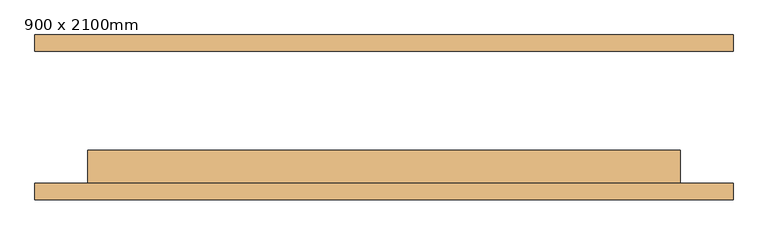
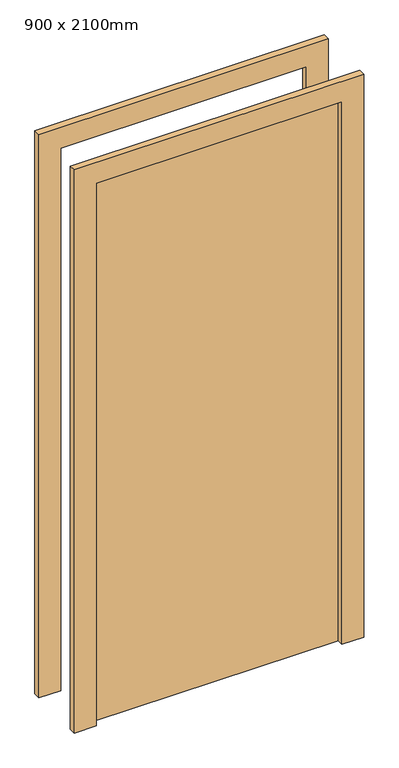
"""IFC4 building model written with IfcOpenShell, lengths in millimetres: door geometry, Дверь-Одинарная-Щитовая_Панель_Двусторонняя : 900 x 2100mm."""

from ifc_helpers import new_model, si_unit, frame, origin, origin_with_axes, place, context, project, spatial, polyline, outline, extrude, source, transform, mapped, element, save


def door_900_x_2100mm_6283dab8(model_context):
    return source(origin(), model_context, "Body", "SweptSolid", [
        extrude(outline(polyline([(450.0, -50.0), (450.0, -100.0), (-450.0, -100.0), (-450.0, -50.0), (450.0, -50.0)])), origin_with_axes(), (0.0, 0.0, 1.0), 2100.0),
        extrude(outline(polyline([(2180.0, -530.0), (0.0, -530.0), (0.0, -450.0), (2100.0, -450.0), (2100.0, 450.0), (0.0, 450.0), (0.0, 530.0), (2180.0, 530.0), (2180.0, -530.0)])), frame((0.0, -125.0, 0.0), z_axis=(0.0, 1.0, 0.0), x_axis=(0.0, 0.0, 1.0)), (0.0, 0.0, 1.0), 25.0),
        extrude(outline(polyline([(2180.0, 530.0), (2180.0, -530.0), (0.0, -530.0), (0.0, -450.0), (2100.0, -450.0), (2100.0, 450.0), (0.0, 450.0), (0.0, 530.0), (2180.0, 530.0)])), frame((0.0, 100.0, 0.0), z_axis=(0.0, 1.0, 0.0), x_axis=(0.0, 0.0, 1.0)), (0.0, 0.0, 1.0), 25.0),
    ])


if __name__ == "__main__":
    model = new_model("IFC4")
    model_context = context("Model", 3, world=origin())
    ifc_project = project(units=[si_unit("LENGTHUNIT", "METRE", prefix="MILLI")], contexts=[model_context])
    site = spatial("IfcSite", under=ifc_project)
    building = spatial("IfcBuilding", under=site)
    placement = place(None, origin())
    door_900_x_2100mm_shape = door_900_x_2100mm_6283dab8(model_context)
    element("IfcDoor", 1, ObjectType="Дверь-Одинарная-Щитовая_Панель_Двусторонняя : 900 x 2100mm", at=placement, inside=building, context=model_context, shape_type="MappedRepresentation", body=[
        mapped(door_900_x_2100mm_shape, transform((0.0, 0.0, 0.0), x_axis=(1.0, 0.0, 0.0), y_axis=(0.0, 1.0, 0.0), z_axis=(0.0, 0.0, 1.0))),
    ])
    save(model, "model.ifc")
